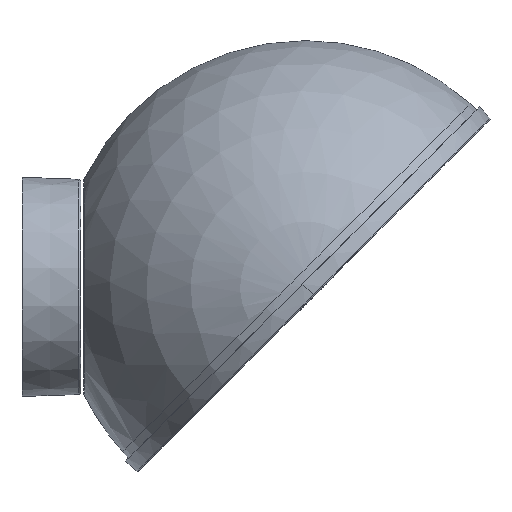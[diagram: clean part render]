
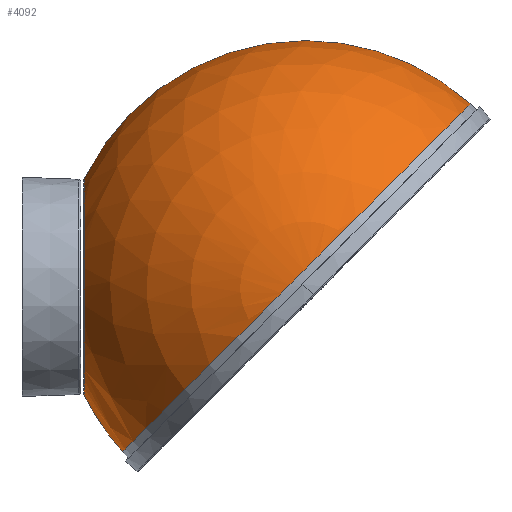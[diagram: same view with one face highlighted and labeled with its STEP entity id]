
A CAD part, left-side view. The second image highlights one B-rep face of the part: STEP entity #4092.
In plain terms, the highlighted spherical face has radius 89.877 mm.
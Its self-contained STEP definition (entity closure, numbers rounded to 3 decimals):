
#674 = EDGE_CURVE ( 'NONE', #16595, #19867, #15508, .T. ) ;
#815 = CARTESIAN_POINT ( 'NONE',  ( 0., 0., 0. ) ) ;
#1072 = CIRCLE ( 'NONE', #19043, 39.47 ) ;
#1335 = VERTEX_POINT ( 'NONE', #8090 ) ;
#1448 = CARTESIAN_POINT ( 'NONE',  ( 0., 0., 0. ) ) ;
#2577 = ORIENTED_EDGE ( 'NONE', *, *, #674, .F. ) ;
#3705 = ORIENTED_EDGE ( 'NONE', *, *, #23819, .T. ) ;
#3860 = DIRECTION ( 'NONE',  ( -1., 0., 0. ) ) ;
#4092 = ADVANCED_FACE ( 'NONE', ( #24494 ), #19665, .T. ) ;
#4518 = ORIENTED_EDGE ( 'NONE', *, *, #14883, .F. ) ;
#4766 = CARTESIAN_POINT ( 'NONE',  ( 0., 0., 0. ) ) ;
#5785 = DIRECTION ( 'NONE',  ( 0., 0., -1. ) ) ;
#6976 = DIRECTION ( 'NONE',  ( 1., 0., 0. ) ) ;
#7190 = DIRECTION ( 'NONE',  ( -1., 0., 0. ) ) ;
#7241 = EDGE_CURVE ( 'NONE', #31137, #16595, #28431, .T. ) ;
#7405 = CIRCLE ( 'NONE', #9965, 89.877 ) ;
#7638 = EDGE_LOOP ( 'NONE', ( #16663, #12959, #4518, #3705, #21363, #2577 ) ) ;
#8090 = CARTESIAN_POINT ( 'NONE',  ( 80.746, 0., -39.47 ) ) ;
#8866 = AXIS2_PLACEMENT_3D ( 'NONE', #29303, #21928, #6976 ) ;
#9965 = AXIS2_PLACEMENT_3D ( 'NONE', #815, #5785, #3860 ) ;
#11672 = DIRECTION ( 'NONE',  ( 0.707, -0.707, 0. ) ) ;
#12874 = CARTESIAN_POINT ( 'NONE',  ( 80.746, 0., 0. ) ) ;
#12959 = ORIENTED_EDGE ( 'NONE', *, *, #13145, .T. ) ;
#13145 = EDGE_CURVE ( 'NONE', #31137, #25823, #7405, .T. ) ;
#13352 = DIRECTION ( 'NONE',  ( 0., 0., 1. ) ) ;
#13958 = AXIS2_PLACEMENT_3D ( 'NONE', #21672, #7190, #29553 ) ;
#14098 = DIRECTION ( 'NONE',  ( -0.707, -0.707, 0. ) ) ;
#14825 = DIRECTION ( 'NONE',  ( -1., 0., 0. ) ) ;
#14883 = EDGE_CURVE ( 'NONE', #18243, #25823, #25400, .T. ) ;
#15441 = DIRECTION ( 'NONE',  ( 0., 0., 1. ) ) ;
#15508 = CIRCLE ( 'NONE', #26273, 89.877 ) ;
#16595 = VERTEX_POINT ( 'NONE', #19335 ) ;
#16663 = ORIENTED_EDGE ( 'NONE', *, *, #7241, .F. ) ;
#18243 = VERTEX_POINT ( 'NONE', #26045 ) ;
#19043 = AXIS2_PLACEMENT_3D ( 'NONE', #12874, #14825, #15441 ) ;
#19335 = CARTESIAN_POINT ( 'NONE',  ( 66.791, -60.139, 0. ) ) ;
#19582 = CIRCLE ( 'NONE', #13958, 39.47 ) ;
#19665 = SPHERICAL_SURFACE ( 'NONE', #8866, 89.877 ) ;
#19867 = VERTEX_POINT ( 'NONE', #19885 ) ;
#19885 = CARTESIAN_POINT ( 'NONE',  ( 80.746, -39.47, 0. ) ) ;
#20428 = DIRECTION ( 'NONE',  ( 1., 0., 0. ) ) ;
#21363 = ORIENTED_EDGE ( 'NONE', *, *, #22611, .T. ) ;
#21672 = CARTESIAN_POINT ( 'NONE',  ( 80.746, 0., 0. ) ) ;
#21928 = DIRECTION ( 'NONE',  ( 0., 0., -1. ) ) ;
#22320 = AXIS2_PLACEMENT_3D ( 'NONE', #1448, #13352, #20428 ) ;
#22611 = EDGE_CURVE ( 'NONE', #1335, #19867, #1072, .T. ) ;
#23819 = EDGE_CURVE ( 'NONE', #18243, #1335, #19582, .T. ) ;
#24494 = FACE_OUTER_BOUND ( 'NONE', #7638, .T. ) ;
#25360 = AXIS2_PLACEMENT_3D ( 'NONE', #26296, #14098, #11672 ) ;
#25400 = CIRCLE ( 'NONE', #22320, 89.877 ) ;
#25749 = CARTESIAN_POINT ( 'NONE',  ( -60.139, 66.791, 0. ) ) ;
#25823 = VERTEX_POINT ( 'NONE', #28094 ) ;
#26045 = CARTESIAN_POINT ( 'NONE',  ( 80.746, 39.47, 0. ) ) ;
#26273 = AXIS2_PLACEMENT_3D ( 'NONE', #4766, #29531, #29048 ) ;
#26296 = CARTESIAN_POINT ( 'NONE',  ( 3.326, 3.326, 0. ) ) ;
#28094 = CARTESIAN_POINT ( 'NONE',  ( 0., 89.877, 0. ) ) ;
#28431 = CIRCLE ( 'NONE', #25360, 89.753 ) ;
#29048 = DIRECTION ( 'NONE',  ( 1., 0., 0. ) ) ;
#29303 = CARTESIAN_POINT ( 'NONE',  ( 0., 0., 0. ) ) ;
#29531 = DIRECTION ( 'NONE',  ( 0., 0., 1. ) ) ;
#29553 = DIRECTION ( 'NONE',  ( 0., 0., 1. ) ) ;
#31137 = VERTEX_POINT ( 'NONE', #25749 ) ;
